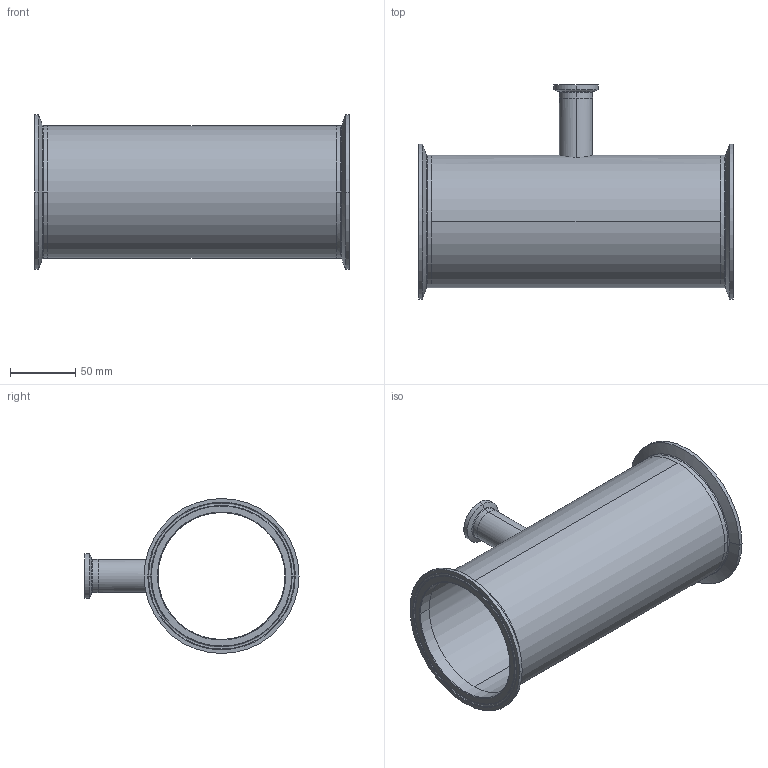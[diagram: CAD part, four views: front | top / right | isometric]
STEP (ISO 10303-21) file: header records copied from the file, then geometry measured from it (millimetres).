
FILE_DESCRIPTION (( 'STEP AP214' ), '1' );
FILE_NAME ('TEG7R6L4.0x1.0-..Type A.STEP', '2016-05-24T07:26:17', ( 'eran' ), ( '' ), 'SwSTEP 2.0', 'SolidWorks 2016', '' );
FILE_SCHEMA (( 'AUTOMOTIVE_DESIGN' ));
Length unit declared in the file: millimetre
Products named in the file (1): TEG7R6L4.0x1.0-..Type A
Bounding box: 241.4 x 164.26 x 118.92 mm (x, y, z)
Volume: 191792.5 mm3; surface area: 174430.8 mm2
Topology: 4 solids, 4 shells, 84 faces, 196 edges, 124 vertices
Faces by surface type: cylinder 28, bspline 28, cone 16, plane 12
Entity records: 4089 total; most frequent: CARTESIAN_POINT 2121, DIRECTION 422, ORIENTED_EDGE 392, EDGE_CURVE 196, AXIS2_PLACEMENT_3D 189, CIRCLE 132, VERTEX_POINT 124, EDGE_LOOP 98
